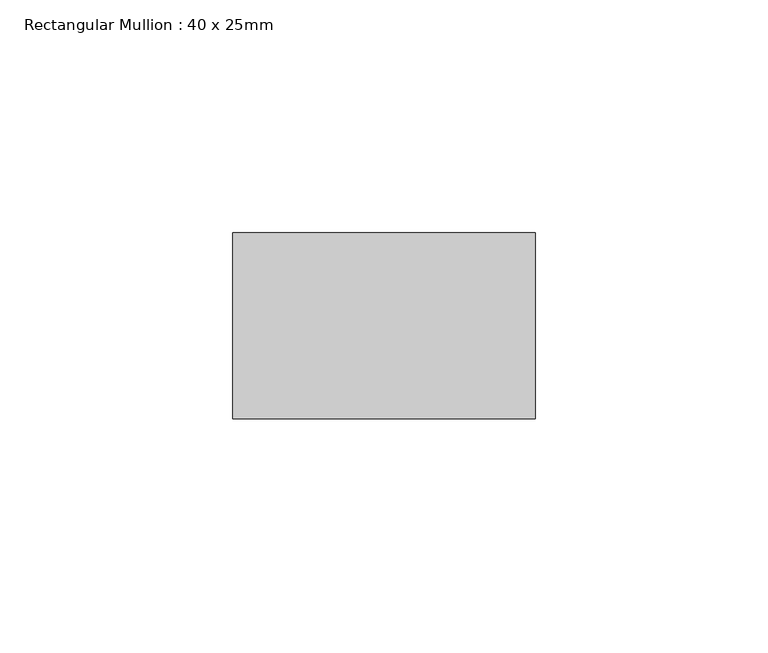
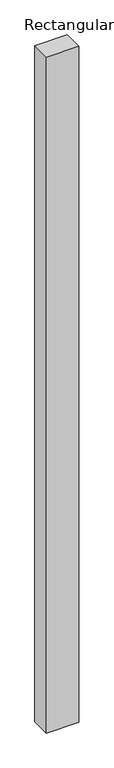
"""IFC4 building model written with IfcOpenShell, lengths in millimetres: member geometry, Rectangular Mullion : 40 x 25mm."""

from ifc_helpers import new_model, si_unit, frame, origin, place, context, project, spatial, polyline, outline, extrude, source, transform, mapped, element, save


def rectangular_mullion_40_x_25mm_d10f2d35(model_context):
    return source(origin(), model_context, "Body", "SweptSolid", [
        extrude(outline(polyline([(40.0, -20.0), (40.0, -60.0), (-25.0, -60.0), (-25.0, -20.0), (40.0, -20.0)])), frame((0.0, 0.0, -1430.0), z_axis=(0.0, 0.0, 1.0), x_axis=(1.0, 0.0, 0.0)), (0.0, 0.0, 1.0), 1430.0),
    ])


if __name__ == "__main__":
    model = new_model("IFC4")
    model_context = context("Model", 3, world=origin())
    ifc_project = project(units=[si_unit("LENGTHUNIT", "METRE", prefix="MILLI")], contexts=[model_context])
    site = spatial("IfcSite", under=ifc_project)
    building = spatial("IfcBuilding", under=site)
    placement = place(None, origin())
    rectangular_mullion_40_x_25mm_shape = rectangular_mullion_40_x_25mm_d10f2d35(model_context)
    element("IfcMember", 1, ObjectType="Rectangular Mullion : 40 x 25mm", at=placement, inside=building, context=model_context, shape_type="MappedRepresentation", body=[
        mapped(rectangular_mullion_40_x_25mm_shape, transform((0.0, 0.0, 0.0), x_axis=(1.0, 0.0, 0.0), y_axis=(0.0, 1.0, 0.0), z_axis=(0.0, 0.0, 1.0))),
    ])
    save(model, "model.ifc")
